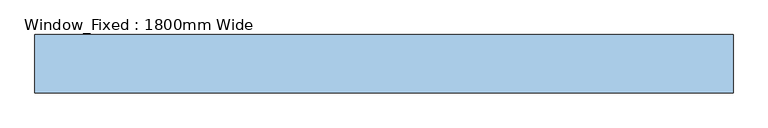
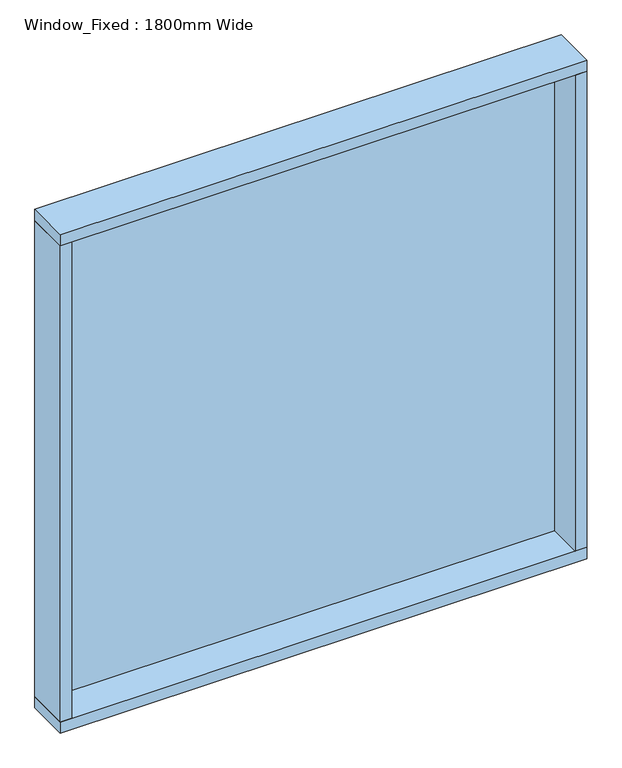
"""IFC4 building model written with IfcOpenShell, lengths in millimetres: window geometry, Window_Fixed : 1800mm Wide."""

from ifc_helpers import new_model, si_unit, frame, origin, place, context, project, spatial, polyline, outline, extrude, source, transform, mapped, element, save


def window_fixed_1800mm_wide_217cd763(model_context):
    return source(origin(), model_context, "Body", "SweptSolid", [
        extrude(outline(polyline([(860.0, 60.0), (860.0, 48.0), (-860.0, 48.0), (-860.0, 60.0), (860.0, 60.0)])), frame((0.0, 0.0, 290.0), z_axis=(0.0, 0.0, 1.0), x_axis=(1.0, 0.0, 0.0)), (0.0, 0.0, 1.0), 1720.0),
        extrude(outline(polyline([(900.0, 75.0), (900.0, -75.0), (-900.0, -75.0), (-900.0, 75.0), (900.0, 75.0)])), frame((0.0, 0.0, 2010.0), z_axis=(0.0, 0.0, 1.0), x_axis=(1.0, 0.0, 0.0)), (0.0, 0.0, 1.0), 40.0),
        extrude(outline(polyline([(900.0, 75.0), (900.0, -75.0), (-900.0, -75.0), (-900.0, 75.0), (900.0, 75.0)])), frame((0.0, 0.0, 250.0), z_axis=(0.0, 0.0, 1.0), x_axis=(1.0, 0.0, 0.0)), (0.0, 0.0, 1.0), 40.0),
        extrude(outline(polyline([(-860.0, -75.0), (-900.0, -75.0), (-900.0, 75.0), (-860.0, 75.0), (-860.0, -75.0)])), frame((0.0, 0.0, 290.0), z_axis=(0.0, 0.0, 1.0), x_axis=(1.0, 0.0, 0.0)), (0.0, 0.0, 1.0), 1720.0),
        extrude(outline(polyline([(860.0, -75.0), (860.0, 75.0), (900.0, 75.0), (900.0, -75.0), (860.0, -75.0)])), frame((0.0, 0.0, 290.0), z_axis=(0.0, 0.0, 1.0), x_axis=(1.0, 0.0, 0.0)), (0.0, 0.0, 1.0), 1720.0),
    ])


if __name__ == "__main__":
    model = new_model("IFC4")
    model_context = context("Model", 3, world=origin())
    ifc_project = project(units=[si_unit("LENGTHUNIT", "METRE", prefix="MILLI")], contexts=[model_context])
    site = spatial("IfcSite", under=ifc_project)
    building = spatial("IfcBuilding", under=site)
    placement = place(None, origin())
    window_fixed_1800mm_wide_shape = window_fixed_1800mm_wide_217cd763(model_context)
    element("IfcWindow", 1, ObjectType="Window_Fixed : 1800mm Wide", at=placement, inside=building, context=model_context, shape_type="MappedRepresentation", body=[
        mapped(window_fixed_1800mm_wide_shape, transform((0.0, 0.0, 0.0), x_axis=(1.0, 0.0, 0.0), y_axis=(0.0, 1.0, 0.0), z_axis=(0.0, 0.0, 1.0))),
    ])
    save(model, "model.ifc")
